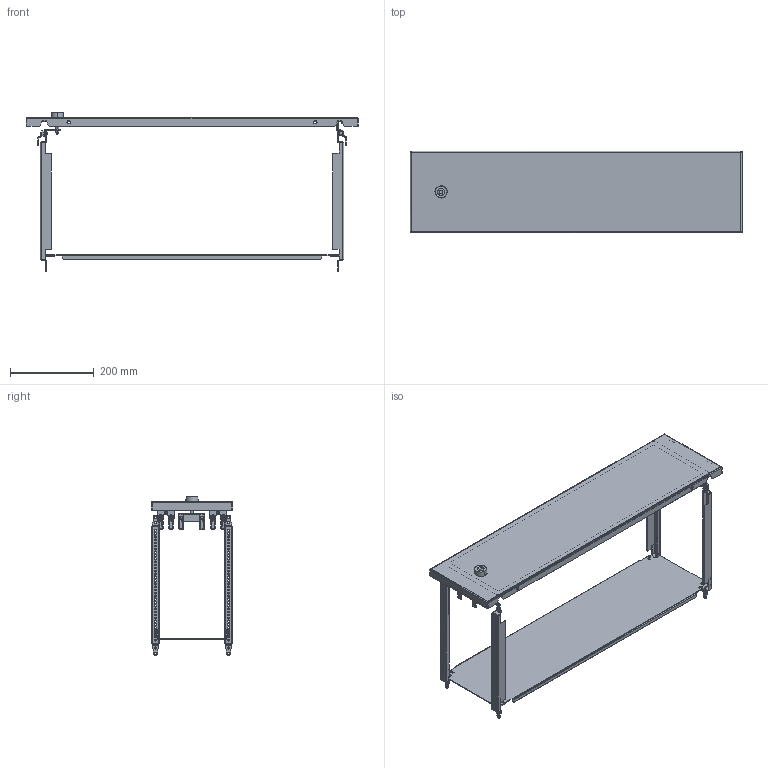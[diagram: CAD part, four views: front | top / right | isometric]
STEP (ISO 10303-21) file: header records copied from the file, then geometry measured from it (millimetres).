
FILE_DESCRIPTION(('CAx-IF Rec.Pracs.---Model Styling and Organization---1.2---2011-12-15','CAx-IF Rec.Pracs.---Geometric and Assembly Validation Properties---4.1---2014-06-16','CAx-IF Rec.Pracs.---PMI Polyline Presentation---2.0---2013-05-24'),'2;1');
FILE_NAME('R5PKEB0820.stp','2021-05-05T13:48:30+03:00',(''),(''),'STEP Interface 4.4 by CT CoreTechnologie','3D_Evolution4.4 by CT CoreTechnologie','');
FILE_SCHEMA(('AUTOMOTIVE_DESIGN { 1 0 10303 214 1 1 1 1 }'));
Length unit declared in the file: millimetre
Products named in the file (20): R5PKEB0820; RB.0329.00.00.0_-00; RB.0348.00.00.0_-00; R5CPMEM_R5CPMEM8200; AC00C745; M6 x 16-DIN 7991 ISR_stright; RB.0687.00.00.1_-00; M6 x 16-DIN 7991 ISR_thread; RB.0116.00.00.2_-00; AC00C485; MS737-1-1; MS737-1-1 stop_fixed; MS737-1-1 Z_ ªàëâ; RB.0572.00.00.1 ÑÁ_-06; AC00C266; PF 7x14 R5PKEB_0200x0800; AC00C061_AC00C061; Ì6õ12-A5100231_straight; RB.0572.00.01.1_-06; RB.0586.00.00.0_-03
Assembly tree (37 placements, depth 4):
  R5PKEB0820
    RB.0329.00.00.0_-00  x4
    RB.0348.00.00.0_-00  x4
    R5CPMEM_R5CPMEM8200
      AC00C745  x2
      M6 x 16-DIN 7991 ISR_stright  x3
      RB.0687.00.00.1_-00
      M6 x 16-DIN 7991 ISR_thread  x3
      RB.0116.00.00.2_-00  x2
      AC00C485  x6
      MS737-1-1
        MS737-1-1 stop_fixed
        MS737-1-1 Z_ ªàëâ
      RB.0572.00.00.1 ÑÁ_-06
        AC00C266  x2
        PF 7x14 R5PKEB_0200x0800
        AC00C061_AC00C061
        Ì6õ12-A5100231_straight
        RB.0572.00.01.1_-06
    RB.0586.00.00.0_-03
Bounding box: 794 x 195 x 379.4 mm (x, y, z)
Surface area: 923823.4 mm2 (no closed solid volume)
Topology: 0 solids, 74 shells, 2030 faces, 5172 edges, 3272 vertices
Faces by surface type: cylinder 951, plane 805, bspline 274
Entity records: 29452 total; most frequent: CARTESIAN_POINT 8152, DIRECTION 4234, ORIENTED_EDGE 4168, EDGE_CURVE 2084, AXIS2_PLACEMENT_3D 1494, VERTEX_POINT 1336, VECTOR 1246, LINE 1246
